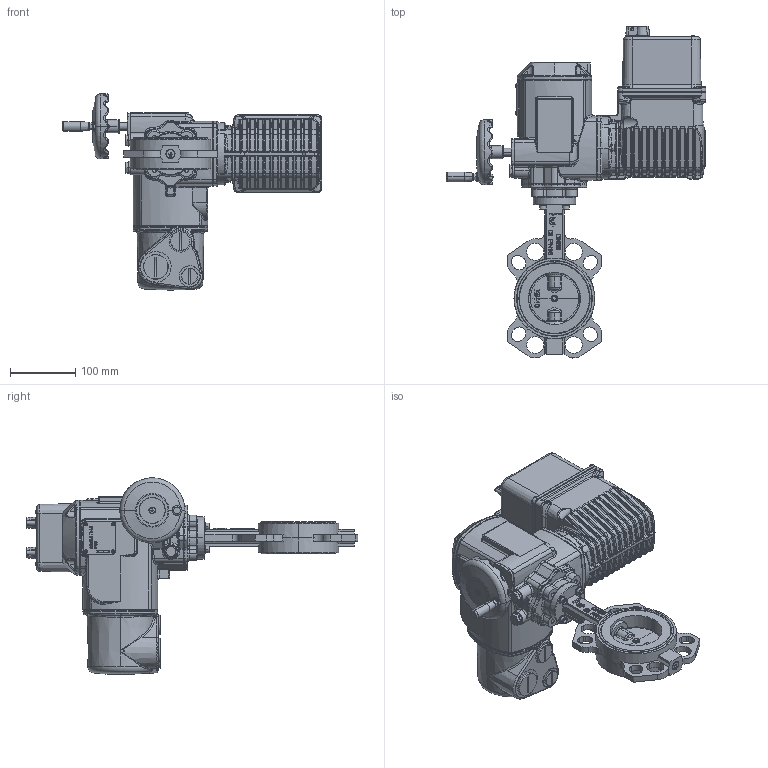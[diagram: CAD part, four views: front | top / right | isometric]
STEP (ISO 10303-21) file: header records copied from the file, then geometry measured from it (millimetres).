
FILE_DESCRIPTION (( 'STEP AP203' ), '1' );
FILE_NAME ('VPI-U04 DN80.step', '2016-09-29T16:05:59', ( 'TECOFI' ), ( '' ), 'SwSTEP 2.0', 'SolidWorks 2014', '' );
FILE_SCHEMA (( 'CONFIG_CONTROL_DESIGN' ));
Products named in the file (1): VPI-U04 DN80
Bounding box: 398.75 x 510.09 x 301.64 mm (x, y, z)
Volume: 7440946.5 mm3; surface area: 616626.4 mm2
Topology: 47 solids, 48 shells, 4338 faces, 10542 edges, 6267 vertices
Faces by surface type: bspline 1407, plane 990, cylinder 963, cone 478, torus 459, sphere 41
Entity records: 196405 total; most frequent: CARTESIAN_POINT 106105, ORIENTED_EDGE 20750, DIRECTION 16129, EDGE_CURVE 10375, AXIS2_PLACEMENT_3D 6334, VERTEX_POINT 6267, EDGE_LOOP 4528, FACE_OUTER_BOUND 4338
